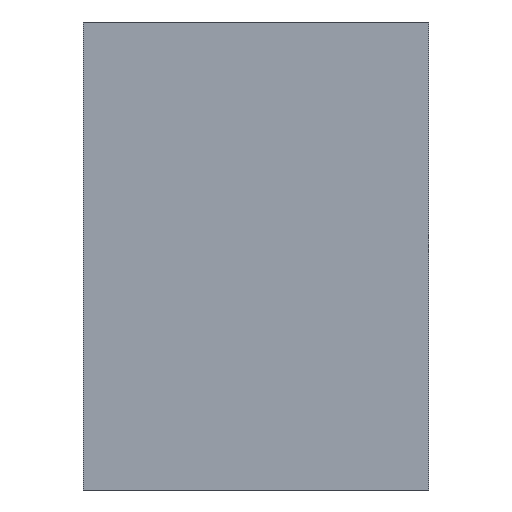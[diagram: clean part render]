
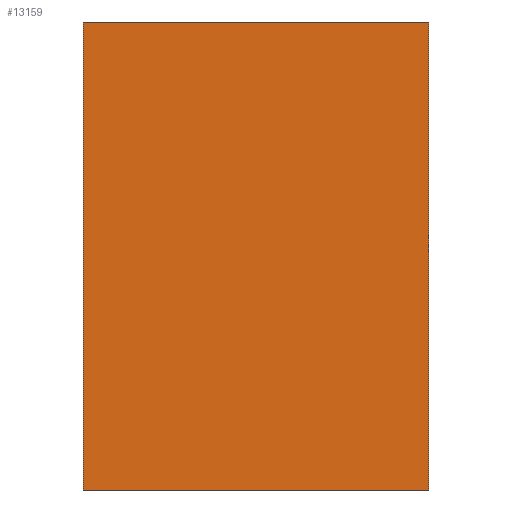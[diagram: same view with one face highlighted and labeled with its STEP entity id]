
A CAD part, left-side view. The second image highlights one B-rep face of the part: STEP entity #13159.
In plain terms, the highlighted planar face has unit normal (-1, 0, 0).
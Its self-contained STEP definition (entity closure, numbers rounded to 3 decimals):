
#756 = DIRECTION ( 'NONE',  ( -1., 0., 0. ) ) ;
#985 = LINE ( 'NONE', #14504, #12917 ) ;
#1107 = EDGE_CURVE ( 'NONE', #29212, #11753, #30645, .T. ) ;
#1910 = EDGE_LOOP ( 'NONE', ( #29247, #9725, #2723, #9095 ) ) ;
#2688 = CARTESIAN_POINT ( 'NONE',  ( 0., -14.75, -20. ) ) ;
#2723 = ORIENTED_EDGE ( 'NONE', *, *, #13879, .F. ) ;
#5495 = LINE ( 'NONE', #6309, #31736 ) ;
#6309 = CARTESIAN_POINT ( 'NONE',  ( 0., -14.75, -20. ) ) ;
#6854 = VERTEX_POINT ( 'NONE', #11785 ) ;
#6943 = DIRECTION ( 'NONE',  ( 0., -1., 0. ) ) ;
#9095 = ORIENTED_EDGE ( 'NONE', *, *, #31530, .F. ) ;
#9725 = ORIENTED_EDGE ( 'NONE', *, *, #1107, .F. ) ;
#10128 = VECTOR ( 'NONE', #19170, 1000. ) ;
#11753 = VERTEX_POINT ( 'NONE', #2688 ) ;
#11785 = CARTESIAN_POINT ( 'NONE',  ( 0., 14.75, 20. ) ) ;
#12917 = VECTOR ( 'NONE', #6943, 1000. ) ;
#13159 = ADVANCED_FACE ( 'NONE', ( #26108 ), #20942, .T. ) ;
#13582 = DIRECTION ( 'NONE',  ( 0., 0., -1. ) ) ;
#13596 = VERTEX_POINT ( 'NONE', #23378 ) ;
#13879 = EDGE_CURVE ( 'NONE', #6854, #29212, #985, .T. ) ;
#14504 = CARTESIAN_POINT ( 'NONE',  ( 0., -14.75, 20. ) ) ;
#15957 = CARTESIAN_POINT ( 'NONE',  ( 0., 14.75, -20. ) ) ;
#16631 = CARTESIAN_POINT ( 'NONE',  ( 0., 14.75, 20. ) ) ;
#17131 = VECTOR ( 'NONE', #13582, 1000. ) ;
#18490 = DIRECTION ( 'NONE',  ( 0., 0., 1. ) ) ;
#18670 = CARTESIAN_POINT ( 'NONE',  ( 0., -14.75, 20. ) ) ;
#19170 = DIRECTION ( 'NONE',  ( 0., 0., 1. ) ) ;
#19231 = CARTESIAN_POINT ( 'NONE',  ( 0., -14.75, 20. ) ) ;
#20942 = PLANE ( 'NONE',  #26824 ) ;
#23020 = EDGE_CURVE ( 'NONE', #11753, #13596, #5495, .T. ) ;
#23378 = CARTESIAN_POINT ( 'NONE',  ( 0., 14.75, -20. ) ) ;
#26108 = FACE_OUTER_BOUND ( 'NONE', #1910, .T. ) ;
#26666 = DIRECTION ( 'NONE',  ( 0., 1., 0. ) ) ;
#26824 = AXIS2_PLACEMENT_3D ( 'NONE', #15957, #756, #18490 ) ;
#29212 = VERTEX_POINT ( 'NONE', #19231 ) ;
#29247 = ORIENTED_EDGE ( 'NONE', *, *, #23020, .F. ) ;
#30404 = LINE ( 'NONE', #16631, #10128 ) ;
#30645 = LINE ( 'NONE', #18670, #17131 ) ;
#31530 = EDGE_CURVE ( 'NONE', #13596, #6854, #30404, .T. ) ;
#31736 = VECTOR ( 'NONE', #26666, 1000. ) ;
